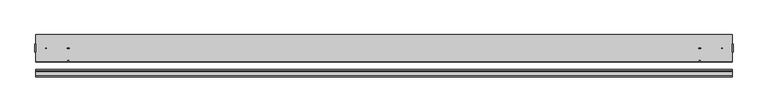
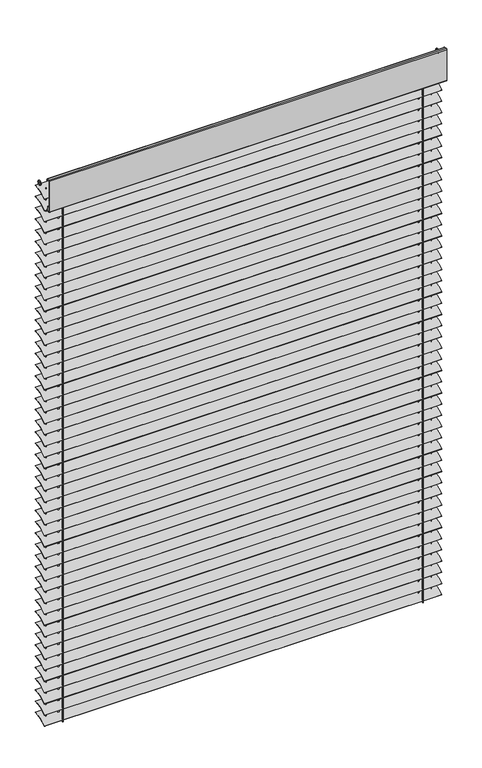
"""IFC4 building model written with IfcOpenShell, lengths in millimetres: proxy geometry, Windows-Blinds Schenker Stores Stores a lamelles Economy EC 70 : Windows-Blinds Schenker Stores Stores a lamelles Economy EC 70."""

from ifc_helpers import new_model, si_unit, point, frame, frame_2d, origin, origin_with_axes, place, context, project, spatial, polyline, circle_curve, trimmed, segment, composite_curve, outline, extrude, source, transform, mapped, element, save


def generic_models_4dfa0e88(model_context):
    return source(origin(), model_context, "Body", "SweptSolid", [
        extrude(outline(composite_curve([segment(trimmed(circle_curve(frame_2d((-18.8646778, 2251.5949116)), 112.7401342), [point((-88.1932392, 2340.4987273))], [point((-22.3317138, 2364.2817233))], False, "CARTESIAN"), True, "CONTINUOUS"), segment(polyline([(-22.3317138, 2364.2817233), (-22.3317138, 2363.2812458)]), True, "CONTINUOUS"), segment(trimmed(circle_curve(frame_2d((-18.8646778, 2251.5949116)), 111.7401342), [point((-22.3317138, 2363.2812458))], [point((-87.5782979, 2339.7101544))], True, "CARTESIAN"), True, "CONTINUOUS"), segment(polyline([(-87.5782979, 2339.7101544), (-88.1932392, 2340.4987273)]), True, "CONTINUOUS")], self_intersect=False)), frame((-850.0, 0.0, 0.0), z_axis=(1.0, 0.0, 0.0), x_axis=(0.0, 1.0, 0.0)), (0.0, 0.0, 1.0), 1700.0),
        extrude(outline(composite_curve([segment(trimmed(circle_curve(frame_2d((-18.8646778, 2200.8766349)), 112.7401342), [point((-88.1932392, 2289.7804505))], [point((-22.3317138, 2313.5634465))], False, "CARTESIAN"), True, "CONTINUOUS"), segment(polyline([(-22.3317138, 2313.5634465), (-22.3317138, 2312.5629691)]), True, "CONTINUOUS"), segment(trimmed(circle_curve(frame_2d((-18.8646778, 2200.8766349)), 111.7401342), [point((-22.3317138, 2312.5629691))], [point((-87.5782979, 2288.9918776))], True, "CARTESIAN"), True, "CONTINUOUS"), segment(polyline([(-87.5782979, 2288.9918776), (-88.1932392, 2289.7804505)]), True, "CONTINUOUS")], self_intersect=False)), frame((-850.0, 0.0, 0.0), z_axis=(1.0, 0.0, 0.0), x_axis=(0.0, 1.0, 0.0)), (0.0, 0.0, 1.0), 1700.0),
        extrude(outline(composite_curve([segment(trimmed(circle_curve(frame_2d((-18.8646778, 2150.1583582)), 112.7401342), [point((-88.1932392, 2239.0621738))], [point((-22.3317138, 2262.8451698))], False, "CARTESIAN"), True, "CONTINUOUS"), segment(polyline([(-22.3317138, 2262.8451698), (-22.3317138, 2261.8446923)]), True, "CONTINUOUS"), segment(trimmed(circle_curve(frame_2d((-18.8646778, 2150.1583582)), 111.7401342), [point((-22.3317138, 2261.8446923))], [point((-87.5782979, 2238.2736009))], True, "CARTESIAN"), True, "CONTINUOUS"), segment(polyline([(-87.5782979, 2238.2736009), (-88.1932392, 2239.0621738)]), True, "CONTINUOUS")], self_intersect=False)), frame((-850.0, 0.0, 0.0), z_axis=(1.0, 0.0, 0.0), x_axis=(0.0, 1.0, 0.0)), (0.0, 0.0, 1.0), 1700.0),
        extrude(outline(composite_curve([segment(trimmed(circle_curve(frame_2d((-18.8646778, 2099.4400814)), 112.7401342), [point((-88.1932392, 2188.343897))], [point((-22.3317138, 2212.126893))], False, "CARTESIAN"), True, "CONTINUOUS"), segment(polyline([(-22.3317138, 2212.126893), (-22.3317138, 2211.1264156)]), True, "CONTINUOUS"), segment(trimmed(circle_curve(frame_2d((-18.8646778, 2099.4400814)), 111.7401342), [point((-22.3317138, 2211.1264156))], [point((-87.5782979, 2187.5553241))], True, "CARTESIAN"), True, "CONTINUOUS"), segment(polyline([(-87.5782979, 2187.5553241), (-88.1932392, 2188.343897)]), True, "CONTINUOUS")], self_intersect=False)), frame((-850.0, 0.0, 0.0), z_axis=(1.0, 0.0, 0.0), x_axis=(0.0, 1.0, 0.0)), (0.0, 0.0, 1.0), 1700.0),
        extrude(outline(composite_curve([segment(trimmed(circle_curve(frame_2d((-18.8646778, 2048.7218047)), 112.7401342), [point((-88.1932392, 2137.6256203))], [point((-22.3317138, 2161.4086163))], False, "CARTESIAN"), True, "CONTINUOUS"), segment(polyline([(-22.3317138, 2161.4086163), (-22.3317138, 2160.4081389)]), True, "CONTINUOUS"), segment(trimmed(circle_curve(frame_2d((-18.8646778, 2048.7218047)), 111.7401342), [point((-22.3317138, 2160.4081389))], [point((-87.5782979, 2136.8370474))], True, "CARTESIAN"), True, "CONTINUOUS"), segment(polyline([(-87.5782979, 2136.8370474), (-88.1932392, 2137.6256203)]), True, "CONTINUOUS")], self_intersect=False)), frame((-850.0, 0.0, 0.0), z_axis=(1.0, 0.0, 0.0), x_axis=(0.0, 1.0, 0.0)), (0.0, 0.0, 1.0), 1700.0),
        extrude(outline(composite_curve([segment(trimmed(circle_curve(frame_2d((-18.8646778, 1998.0035279)), 112.7401342), [point((-88.1932392, 2086.9073436))], [point((-22.3317138, 2110.6903395))], False, "CARTESIAN"), True, "CONTINUOUS"), segment(polyline([(-22.3317138, 2110.6903395), (-22.3317138, 2109.6898621)]), True, "CONTINUOUS"), segment(trimmed(circle_curve(frame_2d((-18.8646778, 1998.0035279)), 111.7401342), [point((-22.3317138, 2109.6898621))], [point((-87.5782979, 2086.1187706))], True, "CARTESIAN"), True, "CONTINUOUS"), segment(polyline([(-87.5782979, 2086.1187706), (-88.1932392, 2086.9073436)]), True, "CONTINUOUS")], self_intersect=False)), frame((-850.0, 0.0, 0.0), z_axis=(1.0, 0.0, 0.0), x_axis=(0.0, 1.0, 0.0)), (0.0, 0.0, 1.0), 1700.0),
        extrude(outline(composite_curve([segment(trimmed(circle_curve(frame_2d((-18.8646778, 1947.2852512)), 112.7401342), [point((-88.1932392, 2036.1890668))], [point((-22.3317138, 2059.9720628))], False, "CARTESIAN"), True, "CONTINUOUS"), segment(polyline([(-22.3317138, 2059.9720628), (-22.3317138, 2058.9715854)]), True, "CONTINUOUS"), segment(trimmed(circle_curve(frame_2d((-18.8646778, 1947.2852512)), 111.7401342), [point((-22.3317138, 2058.9715854))], [point((-87.5782979, 2035.4004939))], True, "CARTESIAN"), True, "CONTINUOUS"), segment(polyline([(-87.5782979, 2035.4004939), (-88.1932392, 2036.1890668)]), True, "CONTINUOUS")], self_intersect=False)), frame((-850.0, 0.0, 0.0), z_axis=(1.0, 0.0, 0.0), x_axis=(0.0, 1.0, 0.0)), (0.0, 0.0, 1.0), 1700.0),
        extrude(outline(composite_curve([segment(trimmed(circle_curve(frame_2d((-18.8646778, 1896.5669745)), 112.7401342), [point((-88.1932392, 1985.4707901))], [point((-22.3317138, 2009.2537861))], False, "CARTESIAN"), True, "CONTINUOUS"), segment(polyline([(-22.3317138, 2009.2537861), (-22.3317138, 2008.2533086)]), True, "CONTINUOUS"), segment(trimmed(circle_curve(frame_2d((-18.8646778, 1896.5669745)), 111.7401342), [point((-22.3317138, 2008.2533086))], [point((-87.5782979, 1984.6822172))], True, "CARTESIAN"), True, "CONTINUOUS"), segment(polyline([(-87.5782979, 1984.6822172), (-88.1932392, 1985.4707901)]), True, "CONTINUOUS")], self_intersect=False)), frame((-850.0, 0.0, 0.0), z_axis=(1.0, 0.0, 0.0), x_axis=(0.0, 1.0, 0.0)), (0.0, 0.0, 1.0), 1700.0),
        extrude(outline(composite_curve([segment(trimmed(circle_curve(frame_2d((-18.8646778, 1845.8486977)), 112.7401342), [point((-88.1932392, 1934.7525133))], [point((-22.3317138, 1958.5355093))], False, "CARTESIAN"), True, "CONTINUOUS"), segment(polyline([(-22.3317138, 1958.5355093), (-22.3317138, 1957.5350319)]), True, "CONTINUOUS"), segment(trimmed(circle_curve(frame_2d((-18.8646778, 1845.8486977)), 111.7401342), [point((-22.3317138, 1957.5350319))], [point((-87.5782979, 1933.9639404))], True, "CARTESIAN"), True, "CONTINUOUS"), segment(polyline([(-87.5782979, 1933.9639404), (-88.1932392, 1934.7525133)]), True, "CONTINUOUS")], self_intersect=False)), frame((-850.0, 0.0, 0.0), z_axis=(1.0, 0.0, 0.0), x_axis=(0.0, 1.0, 0.0)), (0.0, 0.0, 1.0), 1700.0),
        extrude(outline(composite_curve([segment(trimmed(circle_curve(frame_2d((-18.8646778, 1795.130421)), 112.7401342), [point((-88.1932392, 1884.0342366))], [point((-22.3317138, 1907.8172326))], False, "CARTESIAN"), True, "CONTINUOUS"), segment(polyline([(-22.3317138, 1907.8172326), (-22.3317138, 1906.8167551)]), True, "CONTINUOUS"), segment(trimmed(circle_curve(frame_2d((-18.8646778, 1795.130421)), 111.7401342), [point((-22.3317138, 1906.8167551))], [point((-87.5782979, 1883.2456637))], True, "CARTESIAN"), True, "CONTINUOUS"), segment(polyline([(-87.5782979, 1883.2456637), (-88.1932392, 1884.0342366)]), True, "CONTINUOUS")], self_intersect=False)), frame((-850.0, 0.0, 0.0), z_axis=(1.0, 0.0, 0.0), x_axis=(0.0, 1.0, 0.0)), (0.0, 0.0, 1.0), 1700.0),
        extrude(outline(composite_curve([segment(trimmed(circle_curve(frame_2d((-18.8646778, 1744.4121442)), 112.7401342), [point((-88.1932392, 1833.3159598))], [point((-22.3317138, 1857.0989558))], False, "CARTESIAN"), True, "CONTINUOUS"), segment(polyline([(-22.3317138, 1857.0989558), (-22.3317138, 1856.0984784)]), True, "CONTINUOUS"), segment(trimmed(circle_curve(frame_2d((-18.8646778, 1744.4121442)), 111.7401342), [point((-22.3317138, 1856.0984784))], [point((-87.5782979, 1832.5273869))], True, "CARTESIAN"), True, "CONTINUOUS"), segment(polyline([(-87.5782979, 1832.5273869), (-88.1932392, 1833.3159598)]), True, "CONTINUOUS")], self_intersect=False)), frame((-850.0, 0.0, 0.0), z_axis=(1.0, 0.0, 0.0), x_axis=(0.0, 1.0, 0.0)), (0.0, 0.0, 1.0), 1700.0),
        extrude(outline(composite_curve([segment(trimmed(circle_curve(frame_2d((-18.8646778, 1693.6938675)), 112.7401342), [point((-88.1932392, 1782.5976831))], [point((-22.3317138, 1806.3806791))], False, "CARTESIAN"), True, "CONTINUOUS"), segment(polyline([(-22.3317138, 1806.3806791), (-22.3317138, 1805.3802017)]), True, "CONTINUOUS"), segment(trimmed(circle_curve(frame_2d((-18.8646778, 1693.6938675)), 111.7401342), [point((-22.3317138, 1805.3802017))], [point((-87.5782979, 1781.8091102))], True, "CARTESIAN"), True, "CONTINUOUS"), segment(polyline([(-87.5782979, 1781.8091102), (-88.1932392, 1782.5976831)]), True, "CONTINUOUS")], self_intersect=False)), frame((-850.0, 0.0, 0.0), z_axis=(1.0, 0.0, 0.0), x_axis=(0.0, 1.0, 0.0)), (0.0, 0.0, 1.0), 1700.0),
        extrude(outline(composite_curve([segment(trimmed(circle_curve(frame_2d((-18.8646778, 1642.9755907)), 112.7401342), [point((-88.1932392, 1731.8794064))], [point((-22.3317138, 1755.6624023))], False, "CARTESIAN"), True, "CONTINUOUS"), segment(polyline([(-22.3317138, 1755.6624023), (-22.3317138, 1754.6619249)]), True, "CONTINUOUS"), segment(trimmed(circle_curve(frame_2d((-18.8646778, 1642.9755907)), 111.7401342), [point((-22.3317138, 1754.6619249))], [point((-87.5782979, 1731.0908335))], True, "CARTESIAN"), True, "CONTINUOUS"), segment(polyline([(-87.5782979, 1731.0908335), (-88.1932392, 1731.8794064)]), True, "CONTINUOUS")], self_intersect=False)), frame((-850.0, 0.0, 0.0), z_axis=(1.0, 0.0, 0.0), x_axis=(0.0, 1.0, 0.0)), (0.0, 0.0, 1.0), 1700.0),
        extrude(outline(composite_curve([segment(trimmed(circle_curve(frame_2d((-18.8646778, 1592.257314)), 112.7401342), [point((-88.1932392, 1681.1611296))], [point((-22.3317138, 1704.9441256))], False, "CARTESIAN"), True, "CONTINUOUS"), segment(polyline([(-22.3317138, 1704.9441256), (-22.3317138, 1703.9436482)]), True, "CONTINUOUS"), segment(trimmed(circle_curve(frame_2d((-18.8646778, 1592.257314)), 111.7401342), [point((-22.3317138, 1703.9436482))], [point((-87.5782979, 1680.3725567))], True, "CARTESIAN"), True, "CONTINUOUS"), segment(polyline([(-87.5782979, 1680.3725567), (-88.1932392, 1681.1611296)]), True, "CONTINUOUS")], self_intersect=False)), frame((-850.0, 0.0, 0.0), z_axis=(1.0, 0.0, 0.0), x_axis=(0.0, 1.0, 0.0)), (0.0, 0.0, 1.0), 1700.0),
        extrude(outline(composite_curve([segment(trimmed(circle_curve(frame_2d((-18.8646778, 1541.5390373)), 112.7401342), [point((-88.1932392, 1630.4428529))], [point((-22.3317138, 1654.2258489))], False, "CARTESIAN"), True, "CONTINUOUS"), segment(polyline([(-22.3317138, 1654.2258489), (-22.3317138, 1653.2253714)]), True, "CONTINUOUS"), segment(trimmed(circle_curve(frame_2d((-18.8646778, 1541.5390373)), 111.7401342), [point((-22.3317138, 1653.2253714))], [point((-87.5782979, 1629.65428))], True, "CARTESIAN"), True, "CONTINUOUS"), segment(polyline([(-87.5782979, 1629.65428), (-88.1932392, 1630.4428529)]), True, "CONTINUOUS")], self_intersect=False)), frame((-850.0, 0.0, 0.0), z_axis=(1.0, 0.0, 0.0), x_axis=(0.0, 1.0, 0.0)), (0.0, 0.0, 1.0), 1700.0),
        extrude(outline(composite_curve([segment(trimmed(circle_curve(frame_2d((-18.8646778, 1490.8207605)), 112.7401342), [point((-88.1932392, 1579.7245761))], [point((-22.3317138, 1603.5075721))], False, "CARTESIAN"), True, "CONTINUOUS"), segment(polyline([(-22.3317138, 1603.5075721), (-22.3317138, 1602.5070947)]), True, "CONTINUOUS"), segment(trimmed(circle_curve(frame_2d((-18.8646778, 1490.8207605)), 111.7401342), [point((-22.3317138, 1602.5070947))], [point((-87.5782979, 1578.9360032))], True, "CARTESIAN"), True, "CONTINUOUS"), segment(polyline([(-87.5782979, 1578.9360032), (-88.1932392, 1579.7245761)]), True, "CONTINUOUS")], self_intersect=False)), frame((-850.0, 0.0, 0.0), z_axis=(1.0, 0.0, 0.0), x_axis=(0.0, 1.0, 0.0)), (0.0, 0.0, 1.0), 1700.0),
        extrude(outline(composite_curve([segment(trimmed(circle_curve(frame_2d((-18.8646778, 1440.1024838)), 112.7401342), [point((-88.1932392, 1529.0062994))], [point((-22.3317138, 1552.7892954))], False, "CARTESIAN"), True, "CONTINUOUS"), segment(polyline([(-22.3317138, 1552.7892954), (-22.3317138, 1551.788818)]), True, "CONTINUOUS"), segment(trimmed(circle_curve(frame_2d((-18.8646778, 1440.1024838)), 111.7401342), [point((-22.3317138, 1551.788818))], [point((-87.5782979, 1528.2177265))], True, "CARTESIAN"), True, "CONTINUOUS"), segment(polyline([(-87.5782979, 1528.2177265), (-88.1932392, 1529.0062994)]), True, "CONTINUOUS")], self_intersect=False)), frame((-850.0, 0.0, 0.0), z_axis=(1.0, 0.0, 0.0), x_axis=(0.0, 1.0, 0.0)), (0.0, 0.0, 1.0), 1700.0),
        extrude(outline(composite_curve([segment(trimmed(circle_curve(frame_2d((-18.8646778, 1389.384207)), 112.7401342), [point((-88.1932392, 1478.2880227))], [point((-22.3317138, 1502.0710186))], False, "CARTESIAN"), True, "CONTINUOUS"), segment(polyline([(-22.3317138, 1502.0710186), (-22.3317138, 1501.0705412)]), True, "CONTINUOUS"), segment(trimmed(circle_curve(frame_2d((-18.8646778, 1389.384207)), 111.7401342), [point((-22.3317138, 1501.0705412))], [point((-87.5782979, 1477.4994497))], True, "CARTESIAN"), True, "CONTINUOUS"), segment(polyline([(-87.5782979, 1477.4994497), (-88.1932392, 1478.2880227)]), True, "CONTINUOUS")], self_intersect=False)), frame((-850.0, 0.0, 0.0), z_axis=(1.0, 0.0, 0.0), x_axis=(0.0, 1.0, 0.0)), (0.0, 0.0, 1.0), 1700.0),
        extrude(outline(composite_curve([segment(trimmed(circle_curve(frame_2d((-18.8646778, 1338.6659303)), 112.7401342), [point((-88.1932392, 1427.5697459))], [point((-22.3317138, 1451.3527419))], False, "CARTESIAN"), True, "CONTINUOUS"), segment(polyline([(-22.3317138, 1451.3527419), (-22.3317138, 1450.3522645)]), True, "CONTINUOUS"), segment(trimmed(circle_curve(frame_2d((-18.8646778, 1338.6659303)), 111.7401342), [point((-22.3317138, 1450.3522645))], [point((-87.5782979, 1426.781173))], True, "CARTESIAN"), True, "CONTINUOUS"), segment(polyline([(-87.5782979, 1426.781173), (-88.1932392, 1427.5697459)]), True, "CONTINUOUS")], self_intersect=False)), frame((-850.0, 0.0, 0.0), z_axis=(1.0, 0.0, 0.0), x_axis=(0.0, 1.0, 0.0)), (0.0, 0.0, 1.0), 1700.0),
        extrude(outline(composite_curve([segment(trimmed(circle_curve(frame_2d((-18.8646778, 1287.9476535)), 112.7401342), [point((-88.1932392, 1376.8514692))], [point((-22.3317138, 1400.6344652))], False, "CARTESIAN"), True, "CONTINUOUS"), segment(polyline([(-22.3317138, 1400.6344652), (-22.3317138, 1399.6339877)]), True, "CONTINUOUS"), segment(trimmed(circle_curve(frame_2d((-18.8646778, 1287.9476535)), 111.7401342), [point((-22.3317138, 1399.6339877))], [point((-87.5782979, 1376.0628963))], True, "CARTESIAN"), True, "CONTINUOUS"), segment(polyline([(-87.5782979, 1376.0628963), (-88.1932392, 1376.8514692)]), True, "CONTINUOUS")], self_intersect=False)), frame((-850.0, 0.0, 0.0), z_axis=(1.0, 0.0, 0.0), x_axis=(0.0, 1.0, 0.0)), (0.0, 0.0, 1.0), 1700.0),
        extrude(outline(composite_curve([segment(trimmed(circle_curve(frame_2d((-18.8646778, 1237.2293768)), 112.7401342), [point((-88.1932392, 1326.1331924))], [point((-22.3317138, 1349.9161884))], False, "CARTESIAN"), True, "CONTINUOUS"), segment(polyline([(-22.3317138, 1349.9161884), (-22.3317138, 1348.915711)]), True, "CONTINUOUS"), segment(trimmed(circle_curve(frame_2d((-18.8646778, 1237.2293768)), 111.7401342), [point((-22.3317138, 1348.915711))], [point((-87.5782979, 1325.3446195))], True, "CARTESIAN"), True, "CONTINUOUS"), segment(polyline([(-87.5782979, 1325.3446195), (-88.1932392, 1326.1331924)]), True, "CONTINUOUS")], self_intersect=False)), frame((-850.0, 0.0, 0.0), z_axis=(1.0, 0.0, 0.0), x_axis=(0.0, 1.0, 0.0)), (0.0, 0.0, 1.0), 1700.0),
        extrude(outline(composite_curve([segment(trimmed(circle_curve(frame_2d((-18.8646778, 1186.5111001)), 112.7401342), [point((-88.1932392, 1275.4149157))], [point((-22.3317138, 1299.1979117))], False, "CARTESIAN"), True, "CONTINUOUS"), segment(polyline([(-22.3317138, 1299.1979117), (-22.3317138, 1298.1974342)]), True, "CONTINUOUS"), segment(trimmed(circle_curve(frame_2d((-18.8646778, 1186.5111001)), 111.7401342), [point((-22.3317138, 1298.1974342))], [point((-87.5782979, 1274.6263428))], True, "CARTESIAN"), True, "CONTINUOUS"), segment(polyline([(-87.5782979, 1274.6263428), (-88.1932392, 1275.4149157)]), True, "CONTINUOUS")], self_intersect=False)), frame((-850.0, 0.0, 0.0), z_axis=(1.0, 0.0, 0.0), x_axis=(0.0, 1.0, 0.0)), (0.0, 0.0, 1.0), 1700.0),
        extrude(outline(composite_curve([segment(trimmed(circle_curve(frame_2d((-18.8646778, 1135.7928233)), 112.7401342), [point((-88.1932392, 1224.6966389))], [point((-22.3317138, 1248.4796349))], False, "CARTESIAN"), True, "CONTINUOUS"), segment(polyline([(-22.3317138, 1248.4796349), (-22.3317138, 1247.4791575)]), True, "CONTINUOUS"), segment(trimmed(circle_curve(frame_2d((-18.8646778, 1135.7928233)), 111.7401342), [point((-22.3317138, 1247.4791575))], [point((-87.5782979, 1223.908066))], True, "CARTESIAN"), True, "CONTINUOUS"), segment(polyline([(-87.5782979, 1223.908066), (-88.1932392, 1224.6966389)]), True, "CONTINUOUS")], self_intersect=False)), frame((-850.0, 0.0, 0.0), z_axis=(1.0, 0.0, 0.0), x_axis=(0.0, 1.0, 0.0)), (0.0, 0.0, 1.0), 1700.0),
        extrude(outline(composite_curve([segment(trimmed(circle_curve(frame_2d((-18.8646778, 1085.0745466)), 112.7401342), [point((-88.1932392, 1173.9783622))], [point((-22.3317138, 1197.7613582))], False, "CARTESIAN"), True, "CONTINUOUS"), segment(polyline([(-22.3317138, 1197.7613582), (-22.3317138, 1196.7608808)]), True, "CONTINUOUS"), segment(trimmed(circle_curve(frame_2d((-18.8646778, 1085.0745466)), 111.7401342), [point((-22.3317138, 1196.7608808))], [point((-87.5782979, 1173.1897893))], True, "CARTESIAN"), True, "CONTINUOUS"), segment(polyline([(-87.5782979, 1173.1897893), (-88.1932392, 1173.9783622)]), True, "CONTINUOUS")], self_intersect=False)), frame((-850.0, 0.0, 0.0), z_axis=(1.0, 0.0, 0.0), x_axis=(0.0, 1.0, 0.0)), (0.0, 0.0, 1.0), 1700.0),
        extrude(outline(composite_curve([segment(trimmed(circle_curve(frame_2d((-18.8646778, 1034.3562698)), 112.7401342), [point((-88.1932392, 1123.2600855))], [point((-22.3317138, 1147.0430814))], False, "CARTESIAN"), True, "CONTINUOUS"), segment(polyline([(-22.3317138, 1147.0430814), (-22.3317138, 1146.042604)]), True, "CONTINUOUS"), segment(trimmed(circle_curve(frame_2d((-18.8646778, 1034.3562698)), 111.7401342), [point((-22.3317138, 1146.042604))], [point((-87.5782979, 1122.4715125))], True, "CARTESIAN"), True, "CONTINUOUS"), segment(polyline([(-87.5782979, 1122.4715125), (-88.1932392, 1123.2600855)]), True, "CONTINUOUS")], self_intersect=False)), frame((-850.0, 0.0, 0.0), z_axis=(1.0, 0.0, 0.0), x_axis=(0.0, 1.0, 0.0)), (0.0, 0.0, 1.0), 1700.0),
        extrude(outline(composite_curve([segment(trimmed(circle_curve(frame_2d((-18.8646778, 983.6379931)), 112.7401342), [point((-88.1932392, 1072.5418087))], [point((-22.3317138, 1096.3248047))], False, "CARTESIAN"), True, "CONTINUOUS"), segment(polyline([(-22.3317138, 1096.3248047), (-22.3317138, 1095.3243273)]), True, "CONTINUOUS"), segment(trimmed(circle_curve(frame_2d((-18.8646778, 983.6379931)), 111.7401342), [point((-22.3317138, 1095.3243273))], [point((-87.5782979, 1071.7532358))], True, "CARTESIAN"), True, "CONTINUOUS"), segment(polyline([(-87.5782979, 1071.7532358), (-88.1932392, 1072.5418087)]), True, "CONTINUOUS")], self_intersect=False)), frame((-850.0, 0.0, 0.0), z_axis=(1.0, 0.0, 0.0), x_axis=(0.0, 1.0, 0.0)), (0.0, 0.0, 1.0), 1700.0),
        extrude(outline(composite_curve([segment(trimmed(circle_curve(frame_2d((-18.8646778, 932.9197163)), 112.7401342), [point((-88.1932392, 1021.823532))], [point((-22.3317138, 1045.606528))], False, "CARTESIAN"), True, "CONTINUOUS"), segment(polyline([(-22.3317138, 1045.606528), (-22.3317138, 1044.6060505)]), True, "CONTINUOUS"), segment(trimmed(circle_curve(frame_2d((-18.8646778, 932.9197163)), 111.7401342), [point((-22.3317138, 1044.6060505))], [point((-87.5782979, 1021.0349591))], True, "CARTESIAN"), True, "CONTINUOUS"), segment(polyline([(-87.5782979, 1021.0349591), (-88.1932392, 1021.823532)]), True, "CONTINUOUS")], self_intersect=False)), frame((-850.0, 0.0, 0.0), z_axis=(1.0, 0.0, 0.0), x_axis=(0.0, 1.0, 0.0)), (0.0, 0.0, 1.0), 1700.0),
        extrude(outline(composite_curve([segment(trimmed(circle_curve(frame_2d((-18.8646778, 882.2014396)), 112.7401342), [point((-88.1932392, 971.1052552))], [point((-22.3317138, 994.8882512))], False, "CARTESIAN"), True, "CONTINUOUS"), segment(polyline([(-22.3317138, 994.8882512), (-22.3317138, 993.8877738)]), True, "CONTINUOUS"), segment(trimmed(circle_curve(frame_2d((-18.8646778, 882.2014396)), 111.7401342), [point((-22.3317138, 993.8877738))], [point((-87.5782979, 970.3166823))], True, "CARTESIAN"), True, "CONTINUOUS"), segment(polyline([(-87.5782979, 970.3166823), (-88.1932392, 971.1052552)]), True, "CONTINUOUS")], self_intersect=False)), frame((-850.0, 0.0, 0.0), z_axis=(1.0, 0.0, 0.0), x_axis=(0.0, 1.0, 0.0)), (0.0, 0.0, 1.0), 1700.0),
        extrude(outline(composite_curve([segment(trimmed(circle_curve(frame_2d((-18.8646778, 831.4831629)), 112.7401342), [point((-88.1932392, 920.3869785))], [point((-22.3317138, 944.1699745))], False, "CARTESIAN"), True, "CONTINUOUS"), segment(polyline([(-22.3317138, 944.1699745), (-22.3317138, 943.169497)]), True, "CONTINUOUS"), segment(trimmed(circle_curve(frame_2d((-18.8646778, 831.4831629)), 111.7401342), [point((-22.3317138, 943.169497))], [point((-87.5782979, 919.5984056))], True, "CARTESIAN"), True, "CONTINUOUS"), segment(polyline([(-87.5782979, 919.5984056), (-88.1932392, 920.3869785)]), True, "CONTINUOUS")], self_intersect=False)), frame((-850.0, 0.0, 0.0), z_axis=(1.0, 0.0, 0.0), x_axis=(0.0, 1.0, 0.0)), (0.0, 0.0, 1.0), 1700.0),
        extrude(outline(composite_curve([segment(trimmed(circle_curve(frame_2d((-18.8646778, 780.7648861)), 112.7401342), [point((-88.1932392, 869.6687017))], [point((-22.3317138, 893.4516977))], False, "CARTESIAN"), True, "CONTINUOUS"), segment(polyline([(-22.3317138, 893.4516977), (-22.3317138, 892.4512203)]), True, "CONTINUOUS"), segment(trimmed(circle_curve(frame_2d((-18.8646778, 780.7648861)), 111.7401342), [point((-22.3317138, 892.4512203))], [point((-87.5782979, 868.8801288))], True, "CARTESIAN"), True, "CONTINUOUS"), segment(polyline([(-87.5782979, 868.8801288), (-88.1932392, 869.6687017)]), True, "CONTINUOUS")], self_intersect=False)), frame((-850.0, 0.0, 0.0), z_axis=(1.0, 0.0, 0.0), x_axis=(0.0, 1.0, 0.0)), (0.0, 0.0, 1.0), 1700.0),
        extrude(outline(composite_curve([segment(trimmed(circle_curve(frame_2d((-18.8646778, 730.0466094)), 112.7401342), [point((-88.1932392, 818.950425))], [point((-22.3317138, 842.733421))], False, "CARTESIAN"), True, "CONTINUOUS"), segment(polyline([(-22.3317138, 842.733421), (-22.3317138, 841.7329436)]), True, "CONTINUOUS"), segment(trimmed(circle_curve(frame_2d((-18.8646778, 730.0466094)), 111.7401342), [point((-22.3317138, 841.7329436))], [point((-87.5782979, 818.1618521))], True, "CARTESIAN"), True, "CONTINUOUS"), segment(polyline([(-87.5782979, 818.1618521), (-88.1932392, 818.950425)]), True, "CONTINUOUS")], self_intersect=False)), frame((-850.0, 0.0, 0.0), z_axis=(1.0, 0.0, 0.0), x_axis=(0.0, 1.0, 0.0)), (0.0, 0.0, 1.0), 1700.0),
        extrude(outline(composite_curve([segment(trimmed(circle_curve(frame_2d((-18.8646778, 679.3283326)), 112.7401342), [point((-88.1932392, 768.2321483))], [point((-22.3317138, 792.0151442))], False, "CARTESIAN"), True, "CONTINUOUS"), segment(polyline([(-22.3317138, 792.0151442), (-22.3317138, 791.0146668)]), True, "CONTINUOUS"), segment(trimmed(circle_curve(frame_2d((-18.8646778, 679.3283326)), 111.7401342), [point((-22.3317138, 791.0146668))], [point((-87.5782979, 767.4435753))], True, "CARTESIAN"), True, "CONTINUOUS"), segment(polyline([(-87.5782979, 767.4435753), (-88.1932392, 768.2321483)]), True, "CONTINUOUS")], self_intersect=False)), frame((-850.0, 0.0, 0.0), z_axis=(1.0, 0.0, 0.0), x_axis=(0.0, 1.0, 0.0)), (0.0, 0.0, 1.0), 1700.0),
        extrude(outline(composite_curve([segment(trimmed(circle_curve(frame_2d((-18.8646778, 628.6100559)), 112.7401342), [point((-88.1932392, 717.5138715))], [point((-22.3317138, 741.2968675))], False, "CARTESIAN"), True, "CONTINUOUS"), segment(polyline([(-22.3317138, 741.2968675), (-22.3317138, 740.2963901)]), True, "CONTINUOUS"), segment(trimmed(circle_curve(frame_2d((-18.8646778, 628.6100559)), 111.7401342), [point((-22.3317138, 740.2963901))], [point((-87.5782979, 716.7252986))], True, "CARTESIAN"), True, "CONTINUOUS"), segment(polyline([(-87.5782979, 716.7252986), (-88.1932392, 717.5138715)]), True, "CONTINUOUS")], self_intersect=False)), frame((-850.0, 0.0, 0.0), z_axis=(1.0, 0.0, 0.0), x_axis=(0.0, 1.0, 0.0)), (0.0, 0.0, 1.0), 1700.0),
        extrude(outline(composite_curve([segment(trimmed(circle_curve(frame_2d((-18.8646778, 577.8917792)), 112.7401342), [point((-88.1932392, 666.7955948))], [point((-22.3317138, 690.5785908))], False, "CARTESIAN"), True, "CONTINUOUS"), segment(polyline([(-22.3317138, 690.5785908), (-22.3317138, 689.5781133)]), True, "CONTINUOUS"), segment(trimmed(circle_curve(frame_2d((-18.8646778, 577.8917792)), 111.7401342), [point((-22.3317138, 689.5781133))], [point((-87.5782979, 666.0070219))], True, "CARTESIAN"), True, "CONTINUOUS"), segment(polyline([(-87.5782979, 666.0070219), (-88.1932392, 666.7955948)]), True, "CONTINUOUS")], self_intersect=False)), frame((-850.0, 0.0, 0.0), z_axis=(1.0, 0.0, 0.0), x_axis=(0.0, 1.0, 0.0)), (0.0, 0.0, 1.0), 1700.0),
        extrude(outline(composite_curve([segment(trimmed(circle_curve(frame_2d((-18.8646778, 527.1735024)), 112.7401342), [point((-88.1932392, 616.077318))], [point((-22.3317138, 639.860314))], False, "CARTESIAN"), True, "CONTINUOUS"), segment(polyline([(-22.3317138, 639.860314), (-22.3317138, 638.8598366)]), True, "CONTINUOUS"), segment(trimmed(circle_curve(frame_2d((-18.8646778, 527.1735024)), 111.7401342), [point((-22.3317138, 638.8598366))], [point((-87.5782979, 615.2887451))], True, "CARTESIAN"), True, "CONTINUOUS"), segment(polyline([(-87.5782979, 615.2887451), (-88.1932392, 616.077318)]), True, "CONTINUOUS")], self_intersect=False)), frame((-850.0, 0.0, 0.0), z_axis=(1.0, 0.0, 0.0), x_axis=(0.0, 1.0, 0.0)), (0.0, 0.0, 1.0), 1700.0),
        extrude(outline(composite_curve([segment(trimmed(circle_curve(frame_2d((-18.8646778, 476.4552257)), 112.7401342), [point((-88.1932392, 565.3590413))], [point((-22.3317138, 589.1420373))], False, "CARTESIAN"), True, "CONTINUOUS"), segment(polyline([(-22.3317138, 589.1420373), (-22.3317138, 588.1415598)]), True, "CONTINUOUS"), segment(trimmed(circle_curve(frame_2d((-18.8646778, 476.4552257)), 111.7401342), [point((-22.3317138, 588.1415598))], [point((-87.5782979, 564.5704684))], True, "CARTESIAN"), True, "CONTINUOUS"), segment(polyline([(-87.5782979, 564.5704684), (-88.1932392, 565.3590413)]), True, "CONTINUOUS")], self_intersect=False)), frame((-850.0, 0.0, 0.0), z_axis=(1.0, 0.0, 0.0), x_axis=(0.0, 1.0, 0.0)), (0.0, 0.0, 1.0), 1700.0),
        extrude(outline(composite_curve([segment(trimmed(circle_curve(frame_2d((-18.8646778, 425.7369489)), 112.7401342), [point((-88.1932392, 514.6407645))], [point((-22.3317138, 538.4237605))], False, "CARTESIAN"), True, "CONTINUOUS"), segment(polyline([(-22.3317138, 538.4237605), (-22.3317138, 537.4232831)]), True, "CONTINUOUS"), segment(trimmed(circle_curve(frame_2d((-18.8646778, 425.7369489)), 111.7401342), [point((-22.3317138, 537.4232831))], [point((-87.5782979, 513.8521916))], True, "CARTESIAN"), True, "CONTINUOUS"), segment(polyline([(-87.5782979, 513.8521916), (-88.1932392, 514.6407645)]), True, "CONTINUOUS")], self_intersect=False)), frame((-850.0, 0.0, 0.0), z_axis=(1.0, 0.0, 0.0), x_axis=(0.0, 1.0, 0.0)), (0.0, 0.0, 1.0), 1700.0),
        extrude(outline(composite_curve([segment(trimmed(circle_curve(frame_2d((-18.8646778, 375.0186722)), 112.7401342), [point((-88.1932392, 463.9224878))], [point((-22.3317138, 487.7054838))], False, "CARTESIAN"), True, "CONTINUOUS"), segment(polyline([(-22.3317138, 487.7054838), (-22.3317138, 486.7050064)]), True, "CONTINUOUS"), segment(trimmed(circle_curve(frame_2d((-18.8646778, 375.0186722)), 111.7401342), [point((-22.3317138, 486.7050064))], [point((-87.5782979, 463.1339149))], True, "CARTESIAN"), True, "CONTINUOUS"), segment(polyline([(-87.5782979, 463.1339149), (-88.1932392, 463.9224878)]), True, "CONTINUOUS")], self_intersect=False)), frame((-850.0, 0.0, 0.0), z_axis=(1.0, 0.0, 0.0), x_axis=(0.0, 1.0, 0.0)), (0.0, 0.0, 1.0), 1700.0),
        extrude(outline(composite_curve([segment(trimmed(circle_curve(frame_2d((-18.8646778, 324.3003954)), 112.7401342), [point((-88.1932392, 413.2042111))], [point((-22.3317138, 436.987207))], False, "CARTESIAN"), True, "CONTINUOUS"), segment(polyline([(-22.3317138, 436.987207), (-22.3317138, 435.9867296)]), True, "CONTINUOUS"), segment(trimmed(circle_curve(frame_2d((-18.8646778, 324.3003954)), 111.7401342), [point((-22.3317138, 435.9867296))], [point((-87.5782979, 412.4156382))], True, "CARTESIAN"), True, "CONTINUOUS"), segment(polyline([(-87.5782979, 412.4156382), (-88.1932392, 413.2042111)]), True, "CONTINUOUS")], self_intersect=False)), frame((-850.0, 0.0, 0.0), z_axis=(1.0, 0.0, 0.0), x_axis=(0.0, 1.0, 0.0)), (0.0, 0.0, 1.0), 1700.0),
        extrude(outline(composite_curve([segment(trimmed(circle_curve(frame_2d((-18.8646778, 273.5821187)), 112.7401342), [point((-88.1932392, 362.4859343))], [point((-22.3317138, 386.2689303))], False, "CARTESIAN"), True, "CONTINUOUS"), segment(polyline([(-22.3317138, 386.2689303), (-22.3317138, 385.2684529)]), True, "CONTINUOUS"), segment(trimmed(circle_curve(frame_2d((-18.8646778, 273.5821187)), 111.7401342), [point((-22.3317138, 385.2684529))], [point((-87.5782979, 361.6973614))], True, "CARTESIAN"), True, "CONTINUOUS"), segment(polyline([(-87.5782979, 361.6973614), (-88.1932392, 362.4859343)]), True, "CONTINUOUS")], self_intersect=False)), frame((-850.0, 0.0, 0.0), z_axis=(1.0, 0.0, 0.0), x_axis=(0.0, 1.0, 0.0)), (0.0, 0.0, 1.0), 1700.0),
        extrude(outline(composite_curve([segment(trimmed(circle_curve(frame_2d((-18.8646778, 222.863842)), 112.7401342), [point((-88.1932392, 311.7676576))], [point((-22.3317138, 335.5506536))], False, "CARTESIAN"), True, "CONTINUOUS"), segment(polyline([(-22.3317138, 335.5506536), (-22.3317138, 334.5501761)]), True, "CONTINUOUS"), segment(trimmed(circle_curve(frame_2d((-18.8646778, 222.863842)), 111.7401342), [point((-22.3317138, 334.5501761))], [point((-87.5782979, 310.9790847))], True, "CARTESIAN"), True, "CONTINUOUS"), segment(polyline([(-87.5782979, 310.9790847), (-88.1932392, 311.7676576)]), True, "CONTINUOUS")], self_intersect=False)), frame((-850.0, 0.0, 0.0), z_axis=(1.0, 0.0, 0.0), x_axis=(0.0, 1.0, 0.0)), (0.0, 0.0, 1.0), 1700.0),
        extrude(outline(composite_curve([segment(trimmed(circle_curve(frame_2d((-18.8646778, 172.1455652)), 112.7401342), [point((-88.1932392, 261.0493808))], [point((-22.3317138, 284.8323768))], False, "CARTESIAN"), True, "CONTINUOUS"), segment(polyline([(-22.3317138, 284.8323768), (-22.3317138, 283.8318994)]), True, "CONTINUOUS"), segment(trimmed(circle_curve(frame_2d((-18.8646778, 172.1455652)), 111.7401342), [point((-22.3317138, 283.8318994))], [point((-87.5782979, 260.2608079))], True, "CARTESIAN"), True, "CONTINUOUS"), segment(polyline([(-87.5782979, 260.2608079), (-88.1932392, 261.0493808)]), True, "CONTINUOUS")], self_intersect=False)), frame((-850.0, 0.0, 0.0), z_axis=(1.0, 0.0, 0.0), x_axis=(0.0, 1.0, 0.0)), (0.0, 0.0, 1.0), 1700.0),
        extrude(outline(composite_curve([segment(trimmed(circle_curve(frame_2d((-18.8646778, 121.4272885)), 112.7401342), [point((-88.1932392, 210.3311041))], [point((-22.3317138, 234.1141001))], False, "CARTESIAN"), True, "CONTINUOUS"), segment(polyline([(-22.3317138, 234.1141001), (-22.3317138, 233.1136226)]), True, "CONTINUOUS"), segment(trimmed(circle_curve(frame_2d((-18.8646778, 121.4272885)), 111.7401342), [point((-22.3317138, 233.1136226))], [point((-87.5782979, 209.5425312))], True, "CARTESIAN"), True, "CONTINUOUS"), segment(polyline([(-87.5782979, 209.5425312), (-88.1932392, 210.3311041)]), True, "CONTINUOUS")], self_intersect=False)), frame((-850.0, 0.0, 0.0), z_axis=(1.0, 0.0, 0.0), x_axis=(0.0, 1.0, 0.0)), (0.0, 0.0, 1.0), 1700.0),
        extrude(outline(composite_curve([segment(trimmed(circle_curve(frame_2d((-18.8646778, 70.7090117)), 112.7401342), [point((-88.1932392, 159.6128274))], [point((-22.3317138, 183.3958233))], False, "CARTESIAN"), True, "CONTINUOUS"), segment(polyline([(-22.3317138, 183.3958233), (-22.3317138, 182.3953459)]), True, "CONTINUOUS"), segment(trimmed(circle_curve(frame_2d((-18.8646778, 70.7090117)), 111.7401342), [point((-22.3317138, 182.3953459))], [point((-87.5782979, 158.8242544))], True, "CARTESIAN"), True, "CONTINUOUS"), segment(polyline([(-87.5782979, 158.8242544), (-88.1932392, 159.6128274)]), True, "CONTINUOUS")], self_intersect=False)), frame((-850.0, 0.0, 0.0), z_axis=(1.0, 0.0, 0.0), x_axis=(0.0, 1.0, 0.0)), (0.0, 0.0, 1.0), 1700.0),
        extrude(outline(composite_curve([segment(trimmed(circle_curve(frame_2d((-18.8646778, 19.990735)), 112.7401342), [point((-88.1932392, 108.8945506))], [point((-22.3317138, 132.6775466))], False, "CARTESIAN"), True, "CONTINUOUS"), segment(polyline([(-22.3317138, 132.6775466), (-22.3317138, 131.6770692)]), True, "CONTINUOUS"), segment(trimmed(circle_curve(frame_2d((-18.8646778, 19.990735)), 111.7401342), [point((-22.3317138, 131.6770692))], [point((-87.5782979, 108.1059777))], True, "CARTESIAN"), True, "CONTINUOUS"), segment(polyline([(-87.5782979, 108.1059777), (-88.1932392, 108.8945506)]), True, "CONTINUOUS")], self_intersect=False)), frame((-850.0, 0.0, 0.0), z_axis=(1.0, 0.0, 0.0), x_axis=(0.0, 1.0, 0.0)), (0.0, 0.0, 1.0), 1700.0),
        extrude(outline(composite_curve([segment(trimmed(circle_curve(frame_2d((-18.8646778, -30.7275418)), 112.7401342), [point((-88.1932392, 58.1762739))], [point((-22.3317138, 81.9592699))], False, "CARTESIAN"), True, "CONTINUOUS"), segment(polyline([(-22.3317138, 81.9592699), (-22.3317138, 80.9587924)]), True, "CONTINUOUS"), segment(trimmed(circle_curve(frame_2d((-18.8646778, -30.7275418)), 111.7401342), [point((-22.3317138, 80.9587924))], [point((-87.5782979, 57.387701))], True, "CARTESIAN"), True, "CONTINUOUS"), segment(polyline([(-87.5782979, 57.387701), (-88.1932392, 58.1762739)]), True, "CONTINUOUS")], self_intersect=False)), frame((-850.0, 0.0, 0.0), z_axis=(1.0, 0.0, 0.0), x_axis=(0.0, 1.0, 0.0)), (0.0, 0.0, 1.0), 1700.0),
        extrude(outline(composite_curve([segment(trimmed(circle_curve(frame_2d((-18.8646778, 2302.3131884)), 112.7401342), [point((-88.1932392, 2391.217004))], [point((-22.3317138, 2415.0))], False, "CARTESIAN"), True, "CONTINUOUS"), segment(polyline([(-22.3317138, 2415.0), (-22.3317138, 2413.9995226)]), True, "CONTINUOUS"), segment(trimmed(circle_curve(frame_2d((-18.8646778, 2302.3131884)), 111.7401342), [point((-22.3317138, 2413.9995226))], [point((-87.5782979, 2390.4284311))], True, "CARTESIAN"), True, "CONTINUOUS"), segment(polyline([(-87.5782979, 2390.4284311), (-88.1932392, 2391.217004)]), True, "CONTINUOUS")], self_intersect=False)), frame((-850.0, 0.0, 0.0), z_axis=(1.0, 0.0, 0.0), x_axis=(0.0, 1.0, 0.0)), (0.0, 0.0, 1.0), 1700.0),
        extrude(outline(polyline([(-823.7246781, -54.667671), (-823.7246781, -55.5704874), (-825.0, -55.5704874), (-825.0, -54.667671), (-823.7246781, -54.667671)])), origin_with_axes(), (0.0, 0.0, 1.0), 2415.0),
        extrude(outline(polyline([(-767.7873221, -54.6676648), (-767.7873221, -55.5276502), (-772.5868112, -55.5276502), (-772.5868112, -54.6676648), (-767.7873221, -54.6676648)])), origin_with_axes(), (0.0, 0.0, 1.0), 2415.0),
        extrude(outline(polyline([(823.7246781, -54.667671), (825.0, -54.667671), (825.0, -55.5704874), (823.7246781, -55.5704874), (823.7246781, -54.667671)])), origin_with_axes(), (0.0, 0.0, 1.0), 2415.0),
        extrude(outline(polyline([(767.7873221, -54.6676648), (772.5868112, -54.6676648), (772.5868112, -55.5704806), (767.7873221, -55.5704806), (767.7873221, -54.6676648)])), origin_with_axes(), (0.0, 0.0, 1.0), 2415.0),
        extrude(outline(polyline([(-768.8882367, -88.2983427), (-771.3882294, -88.2983427), (-771.3882294, -85.5983427), (-768.8882367, -85.5983427), (-768.8882367, -88.2983427)])), origin_with_axes(), (0.0, 0.0, 1.0), 2415.0),
        extrude(outline(polyline([(-771.3882294, -22.1475771), (-768.8882367, -22.1475771), (-768.8882367, -24.8080021), (-771.3882294, -24.8080021), (-771.3882294, -22.1475771)])), origin_with_axes(), (0.0, 0.0, 1.0), 2415.0),
        extrude(outline(polyline([(771.3958013, -22.1475771), (771.3958013, -24.8475771), (768.8958085, -24.8475771), (768.8958085, -22.1475771), (771.3958013, -22.1475771)])), origin_with_axes(), (0.0, 0.0, 1.0), 2415.0),
        extrude(outline(polyline([(768.8958085, -88.2983427), (768.8958085, -85.5983427), (771.3958013, -85.5983427), (771.3958013, -88.2983427), (768.8958085, -88.2983427)])), origin_with_axes(), (0.0, 0.0, 1.0), 2415.0),
        extrude(outline(composite_curve([segment(trimmed(circle_curve(frame_2d((-18.8646778, -81.4458185)), 112.7401342), [point((-88.1932392, 7.4579971))], [point((-22.3317138, 31.2409931))], False, "CARTESIAN"), True, "CONTINUOUS"), segment(polyline([(-22.3317138, 31.2409931), (-22.3317138, 30.2405157)]), True, "CONTINUOUS"), segment(trimmed(circle_curve(frame_2d((-18.8646778, -81.4458185)), 111.7401342), [point((-22.3317138, 30.2405157))], [point((-87.5782979, 6.6694242))], True, "CARTESIAN"), True, "CONTINUOUS"), segment(polyline([(-87.5782979, 6.6694242), (-88.1932392, 7.4579971)]), True, "CONTINUOUS")], self_intersect=False)), frame((-850.0, 0.0, 0.0), z_axis=(1.0, 0.0, 0.0), x_axis=(0.0, 1.0, 0.0)), (0.0, 0.0, 1.0), 1700.0),
        extrude(outline(composite_curve([segment(trimmed(circle_curve(frame_2d((-121.9991374, 2355.8607809)), 1.4999084), [point((-123.4990459, 2355.8607809))], [point((-121.9991374, 2354.3608725))], True, "CARTESIAN"), True, "CONTINUOUS"), segment(polyline([(-121.9991374, 2354.3608725), (-112.9990554, 2354.3608725)]), True, "CONTINUOUS"), segment(trimmed(circle_curve(frame_2d((-112.9990554, 2355.8608718)), 1.4999993), [point((-112.9990554, 2354.3608725))], [point((-111.4990561, 2355.8608718))], True, "CARTESIAN"), True, "CONTINUOUS"), segment(polyline([(-111.4990561, 2355.8608718), (-111.4990561, 2358.8249895), (-110.9535226, 2360.8609118), (-109.9990568, 2360.8609118), (-109.9990568, 2355.8607809)]), True, "CONTINUOUS"), segment(trimmed(circle_curve(frame_2d((-112.9990191, 2355.8607809)), 2.9999622), [point((-109.9990568, 2355.8607809))], [point((-112.9990191, 2352.8608187))], False, "CARTESIAN"), True, "CONTINUOUS"), segment(polyline([(-112.9990191, 2352.8608187), (-121.9990784, 2352.8608187)]), True, "CONTINUOUS"), segment(trimmed(circle_curve(frame_2d((-121.9990784, 2355.8607809)), 2.9999622), [point((-121.9990784, 2352.8608187))], [point((-124.9990406, 2355.8607809))], False, "CARTESIAN"), True, "CONTINUOUS"), segment(polyline([(-124.9990406, 2355.8607809), (-124.9990406, 2495.8608111)]), True, "CONTINUOUS"), segment(trimmed(circle_curve(frame_2d((-121.998933, 2495.8608111)), 3.0001076), [point((-124.9990406, 2495.8608111))], [point((-121.998933, 2498.8609186))], False, "CARTESIAN"), True, "CONTINUOUS"), segment(polyline([(-121.998933, 2498.8609186), (-112.099681, 2498.8609186)]), True, "CONTINUOUS"), segment(trimmed(circle_curve(frame_2d((-112.099681, 2495.8608787)), 3.0000399), [point((-112.099681, 2498.8609186))], [point((-109.2805505, 2496.8869112))], False, "CARTESIAN"), True, "CONTINUOUS"), segment(polyline([(-109.2805505, 2496.8869112), (-106.5788895, 2489.4638178), (-107.9884374, 2488.9509131), (-110.6901028, 2496.3738856)]), True, "CONTINUOUS"), segment(trimmed(circle_curve(frame_2d((-112.0996417, 2495.8608697)), 1.4999951), [point((-110.6901028, 2496.3738856))], [point((-112.0996417, 2497.3608649))], True, "CARTESIAN"), True, "CONTINUOUS"), segment(polyline([(-112.0996417, 2497.3608649), (-121.9989921, 2497.3608649)]), True, "CONTINUOUS"), segment(trimmed(circle_curve(frame_2d((-121.9989921, 2495.8608111)), 1.5000538), [point((-121.9989921, 2497.3608649))], [point((-123.4990459, 2495.8608111))], True, "CARTESIAN"), True, "CONTINUOUS"), segment(polyline([(-123.4990459, 2495.8608111), (-123.4990459, 2355.8607809)]), True, "CONTINUOUS")], self_intersect=False)), frame((-850.0, 0.0, 0.0), z_axis=(1.0, 0.0, 0.0), x_axis=(0.0, 1.0, 0.0)), (0.0, 0.0, 1.0), 1700.0),
        extrude(outline(polyline([(850.0, -112.9987209), (850.0, -121.4989243), (-850.0, -121.4989243), (-850.0, -112.9987209), (850.0, -112.9987209)])), frame((0.0, 0.0, 2355.0001297), z_axis=(0.0, 0.0, 1.0), x_axis=(1.0, 0.0, 0.0)), (0.0, 0.0, 1.0), 20.7405945),
        extrude(outline(composite_curve([segment(trimmed(circle_curve(frame_2d((-54.8266721, 2446.3040026)), 10.0021363), [point((-64.8288085, 2446.3040026))], [point((-44.8245358, 2446.3040026))], False, "CARTESIAN"), True, "CONTINUOUS"), segment(trimmed(circle_curve(frame_2d((-54.8266721, 2446.3040026)), 10.0021363), [point((-44.8245358, 2446.3040026))], [point((-64.8288085, 2446.3040026))], False, "CARTESIAN"), True, "CONTINUOUS")], self_intersect=False), holes=[composite_curve([segment(trimmed(circle_curve(frame_2d((-54.8290608, 2446.2380341)), 7.1747232), [point((-57.7519733, 2452.7903799))], [point((-51.9061483, 2452.7903799))], True, "CARTESIAN"), True, "CONTINUOUS"), segment(trimmed(circle_curve(frame_2d((-52.1590962, 2450.6163008)), 2.1887445), [point((-51.9061483, 2452.7903799))], [point((-54.0990698, 2451.6297627))], True, "CARTESIAN"), True, "CONTINUOUS"), segment(trimmed(circle_curve(frame_2d((-54.8287466, 2452.0109533)), 0.8232463), [point((-54.0990698, 2451.6297627))], [point((-55.5584234, 2451.6297627))], False, "CARTESIAN"), True, "CONTINUOUS"), segment(trimmed(circle_curve(frame_2d((-57.4984973, 2450.6162484)), 2.1888577), [point((-55.5584234, 2451.6297627))], [point((-57.7519733, 2452.7903799))], True, "CARTESIAN"), True, "CONTINUOUS")], self_intersect=False)]), frame((-851.9744708, 0.0, 0.0), z_axis=(1.0, 0.0, 0.0), x_axis=(0.0, 1.0, 0.0)), (0.0, 0.0, 1.0), 1.9744708),
        extrude(outline(composite_curve([segment(trimmed(circle_curve(frame_2d((-54.8287466, 2452.0370957)), 2.71764), [point((-57.3618888, 2451.0528406))], [point((-52.2956044, 2451.0528406))], True, "CARTESIAN"), True, "CONTINUOUS"), segment(trimmed(circle_curve(frame_2d((-54.8287466, 2446.2414961)), 5.4374485), [point((-52.2956044, 2451.0528406))], [point((-57.3618888, 2451.0528406))], False, "CARTESIAN"), True, "CONTINUOUS")], self_intersect=False)), frame((-851.9744708, 0.0, 0.0), z_axis=(1.0, 0.0, 0.0), x_axis=(0.0, 1.0, 0.0)), (0.0, 0.0, 1.0), 1.9744708),
        extrude(outline(composite_curve([segment(trimmed(circle_curve(frame_2d((-54.8266721, 2446.3040026)), 10.0021363), [point((-64.8288085, 2446.3040026))], [point((-44.8245358, 2446.3040026))], False, "CARTESIAN"), True, "CONTINUOUS"), segment(trimmed(circle_curve(frame_2d((-54.8266721, 2446.3040026)), 10.0021363), [point((-44.8245358, 2446.3040026))], [point((-64.8288085, 2446.3040026))], False, "CARTESIAN"), True, "CONTINUOUS")], self_intersect=False), holes=[composite_curve([segment(trimmed(circle_curve(frame_2d((-54.8290608, 2446.2380341)), 7.1747232), [point((-57.7519733, 2452.7903799))], [point((-51.9061483, 2452.7903799))], True, "CARTESIAN"), True, "CONTINUOUS"), segment(trimmed(circle_curve(frame_2d((-52.1590962, 2450.6163008)), 2.1887445), [point((-51.9061483, 2452.7903799))], [point((-54.0990698, 2451.6297627))], True, "CARTESIAN"), True, "CONTINUOUS"), segment(trimmed(circle_curve(frame_2d((-54.8287466, 2452.0109533)), 0.8232463), [point((-54.0990698, 2451.6297627))], [point((-55.5584234, 2451.6297627))], False, "CARTESIAN"), True, "CONTINUOUS"), segment(trimmed(circle_curve(frame_2d((-57.4984973, 2450.6162484)), 2.1888577), [point((-55.5584234, 2451.6297627))], [point((-57.7519733, 2452.7903799))], True, "CARTESIAN"), True, "CONTINUOUS")], self_intersect=False)]), frame((850.0, 0.0, 0.0), z_axis=(1.0, 0.0, 0.0), x_axis=(0.0, 1.0, 0.0)), (0.0, 0.0, 1.0), 1.9744708),
        extrude(outline(composite_curve([segment(trimmed(circle_curve(frame_2d((-54.8287466, 2452.0370957)), 2.71764), [point((-57.3618888, 2451.0528406))], [point((-52.2956044, 2451.0528406))], True, "CARTESIAN"), True, "CONTINUOUS"), segment(trimmed(circle_curve(frame_2d((-54.8287466, 2446.2414961)), 5.4374485), [point((-52.2956044, 2451.0528406))], [point((-57.3618888, 2451.0528406))], False, "CARTESIAN"), True, "CONTINUOUS")], self_intersect=False)), frame((850.0, 0.0, 0.0), z_axis=(1.0, 0.0, 0.0), x_axis=(0.0, 1.0, 0.0)), (0.0, 0.0, 1.0), 1.9744708),
    ])


if __name__ == "__main__":
    model = new_model("IFC4")
    model_context = context("Model", 3, world=origin())
    ifc_project = project(units=[si_unit("LENGTHUNIT", "METRE", prefix="MILLI")], contexts=[model_context])
    site = spatial("IfcSite", under=ifc_project)
    building = spatial("IfcBuilding", under=site)
    placement = place(None, origin())
    generic_models_shape = generic_models_4dfa0e88(model_context)
    element("IfcBuildingElementProxy", 1, Name="Windows-Blinds Schenker Stores Stores a lamelles Economy EC 70 : Windows-Blinds Schenker Stores Stores a lamelles Economy EC 70", ObjectType="Windows-Blinds Schenker Stores Stores a lamelles Economy EC 70 : Windows-Blinds Schenker Stores Stores a lamelles Economy EC 70", at=placement, inside=building, context=model_context, shape_type="MappedRepresentation", body=[
        mapped(generic_models_shape, transform((0.0, 0.0, 0.0), x_axis=(1.0, 0.0, 0.0), y_axis=(0.0, 1.0, 0.0), z_axis=(0.0, 0.0, 1.0))),
    ])
    save(model, "model.ifc")
